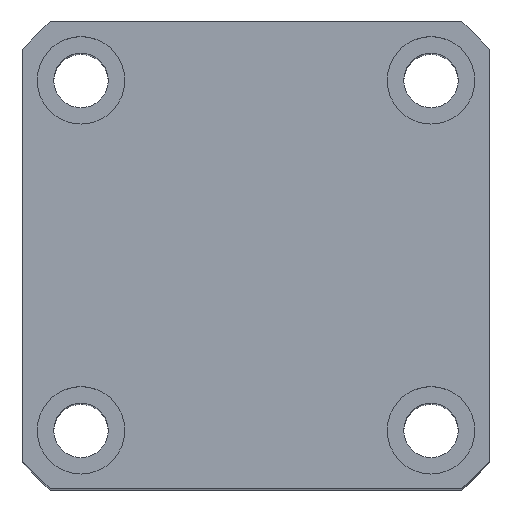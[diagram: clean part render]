
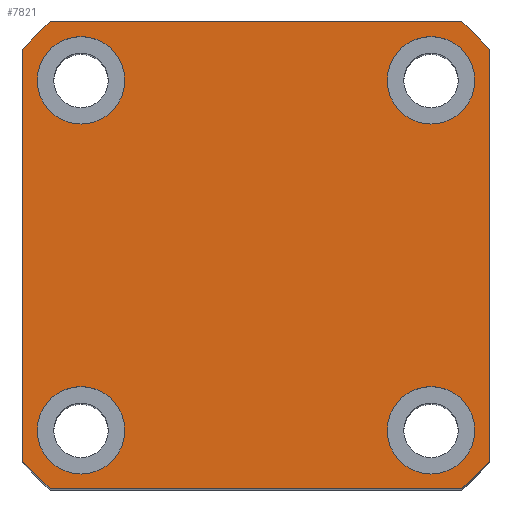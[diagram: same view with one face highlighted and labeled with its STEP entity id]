
A CAD part, top view. The second image highlights one B-rep face of the part: STEP entity #7821.
In plain terms, the highlighted planar face has unit normal (0, 0, 1) as drawn and (1, 0, 0) by its records, which use the part's own axes.
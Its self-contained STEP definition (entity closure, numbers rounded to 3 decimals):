
#9 = CARTESIAN_POINT ( 'NONE',  ( 80., 24., 21.166 ) ) ;
#17 = CARTESIAN_POINT ( 'NONE',  ( 80., -21.166, -24. ) ) ;
#61 = DIRECTION ( 'NONE',  ( 1., 0., 0. ) ) ;
#103 = CARTESIAN_POINT ( 'NONE',  ( 80., 18., -18. ) ) ;
#145 = DIRECTION ( 'NONE',  ( 0., 0., -1. ) ) ;
#384 = CIRCLE ( 'NONE', #3969, 32. ) ;
#424 = VERTEX_POINT ( 'NONE', #3492 ) ;
#471 = EDGE_CURVE ( 'NONE', #3084, #9957, #7699, .T. ) ;
#493 = CIRCLE ( 'NONE', #4483, 4.5 ) ;
#630 = FACE_BOUND ( 'NONE', #7166, .T. ) ;
#673 = EDGE_CURVE ( 'NONE', #4186, #4043, #9313, .T. ) ;
#712 = VERTEX_POINT ( 'NONE', #10400 ) ;
#758 = CIRCLE ( 'NONE', #8121, 32. ) ;
#787 = VERTEX_POINT ( 'NONE', #9 ) ;
#971 = DIRECTION ( 'NONE',  ( 0., 0., -1. ) ) ;
#973 = DIRECTION ( 'NONE',  ( 1., 0., 0. ) ) ;
#981 = CARTESIAN_POINT ( 'NONE',  ( 80., -18., 18. ) ) ;
#1030 = ORIENTED_EDGE ( 'NONE', *, *, #5077, .T. ) ;
#1054 = EDGE_CURVE ( 'NONE', #787, #10558, #6162, .T. ) ;
#1229 = CIRCLE ( 'NONE', #7945, 4.5 ) ;
#1368 = CARTESIAN_POINT ( 'NONE',  ( 80., 21.166, 24. ) ) ;
#1421 = EDGE_CURVE ( 'NONE', #5208, #424, #2145, .T. ) ;
#1450 = CARTESIAN_POINT ( 'NONE',  ( 80., -18., 18. ) ) ;
#1472 = VERTEX_POINT ( 'NONE', #4266 ) ;
#1667 = DIRECTION ( 'NONE',  ( 0., 1., 0. ) ) ;
#1685 = CARTESIAN_POINT ( 'NONE',  ( 80., 24., -24. ) ) ;
#1884 = CARTESIAN_POINT ( 'NONE',  ( 80., 0., 0. ) ) ;
#1961 = EDGE_CURVE ( 'NONE', #2219, #7678, #1229, .T. ) ;
#2145 = CIRCLE ( 'NONE', #8135, 4.5 ) ;
#2219 = VERTEX_POINT ( 'NONE', #2384 ) ;
#2264 = DIRECTION ( 'NONE',  ( 0., 0., -1. ) ) ;
#2384 = CARTESIAN_POINT ( 'NONE',  ( 80., -18., 22.5 ) ) ;
#2604 = CARTESIAN_POINT ( 'NONE',  ( 80., 0., 0. ) ) ;
#2620 = FACE_BOUND ( 'NONE', #7424, .T. ) ;
#2707 = DIRECTION ( 'NONE',  ( 0., 0., -1. ) ) ;
#2793 = EDGE_LOOP ( 'NONE', ( #9756, #6615 ) ) ;
#2815 = VECTOR ( 'NONE', #1667, 1000. ) ;
#2851 = CARTESIAN_POINT ( 'NONE',  ( 80., -24., 24. ) ) ;
#2881 = FACE_BOUND ( 'NONE', #9394, .T. ) ;
#2902 = CARTESIAN_POINT ( 'NONE',  ( 80., 24., -21.166 ) ) ;
#3016 = ORIENTED_EDGE ( 'NONE', *, *, #9061, .T. ) ;
#3059 = AXIS2_PLACEMENT_3D ( 'NONE', #9651, #4815, #10431 ) ;
#3084 = VERTEX_POINT ( 'NONE', #10460 ) ;
#3138 = CARTESIAN_POINT ( 'NONE',  ( 80., 18., 13.5 ) ) ;
#3190 = EDGE_LOOP ( 'NONE', ( #3415, #1030, #8960, #5791, #10034, #10342, #9869, #3016 ) ) ;
#3312 = VECTOR ( 'NONE', #3695, 1000. ) ;
#3372 = VECTOR ( 'NONE', #3421, 1000. ) ;
#3415 = ORIENTED_EDGE ( 'NONE', *, *, #673, .T. ) ;
#3421 = DIRECTION ( 'NONE',  ( 0., 0., 1. ) ) ;
#3439 = DIRECTION ( 'NONE',  ( 0., 0., -1. ) ) ;
#3492 = CARTESIAN_POINT ( 'NONE',  ( 80., 18., 22.5 ) ) ;
#3695 = DIRECTION ( 'NONE',  ( 0., 0., -1. ) ) ;
#3890 = EDGE_CURVE ( 'NONE', #8067, #9867, #7124, .T. ) ;
#3949 = AXIS2_PLACEMENT_3D ( 'NONE', #103, #61, #10488 ) ;
#3969 = AXIS2_PLACEMENT_3D ( 'NONE', #1884, #7636, #2707 ) ;
#4043 = VERTEX_POINT ( 'NONE', #9855 ) ;
#4102 = CARTESIAN_POINT ( 'NONE',  ( 80., -18., -13.5 ) ) ;
#4116 = CARTESIAN_POINT ( 'NONE',  ( 80., 18., -13.5 ) ) ;
#4171 = DIRECTION ( 'NONE',  ( 0., -1., 0. ) ) ;
#4186 = VERTEX_POINT ( 'NONE', #17 ) ;
#4245 = EDGE_CURVE ( 'NONE', #6485, #1472, #5837, .T. ) ;
#4266 = CARTESIAN_POINT ( 'NONE',  ( 80., 18., -22.5 ) ) ;
#4306 = DIRECTION ( 'NONE',  ( 0., 0., -1. ) ) ;
#4336 = CARTESIAN_POINT ( 'NONE',  ( 80., 0., 0. ) ) ;
#4392 = DIRECTION ( 'NONE',  ( 0., 0., -1. ) ) ;
#4406 = DIRECTION ( 'NONE',  ( 1., 0., 0. ) ) ;
#4408 = CARTESIAN_POINT ( 'NONE',  ( 80., 18., 18. ) ) ;
#4431 = DIRECTION ( 'NONE',  ( 1., 0., 0. ) ) ;
#4441 = CIRCLE ( 'NONE', #8677, 4.5 ) ;
#4483 = AXIS2_PLACEMENT_3D ( 'NONE', #4698, #10333, #5521 ) ;
#4552 = CARTESIAN_POINT ( 'NONE',  ( 80., -18., -22.5 ) ) ;
#4666 = DIRECTION ( 'NONE',  ( 1., 0., 0. ) ) ;
#4698 = CARTESIAN_POINT ( 'NONE',  ( 80., 18., -18. ) ) ;
#4796 = FACE_BOUND ( 'NONE', #2793, .T. ) ;
#4815 = DIRECTION ( 'NONE',  ( 1., 0., 0. ) ) ;
#4902 = EDGE_CURVE ( 'NONE', #712, #3084, #758, .T. ) ;
#5077 = EDGE_CURVE ( 'NONE', #4043, #8056, #5819, .T. ) ;
#5141 = DIRECTION ( 'NONE',  ( 1., 0., 0. ) ) ;
#5208 = VERTEX_POINT ( 'NONE', #3138 ) ;
#5312 = LINE ( 'NONE', #5909, #3372 ) ;
#5322 = ORIENTED_EDGE ( 'NONE', *, *, #5906, .F. ) ;
#5521 = DIRECTION ( 'NONE',  ( 0., 0., -1. ) ) ;
#5791 = ORIENTED_EDGE ( 'NONE', *, *, #1054, .T. ) ;
#5819 = CIRCLE ( 'NONE', #6302, 32. ) ;
#5836 = DIRECTION ( 'NONE',  ( 0., 0., -1. ) ) ;
#5837 = CIRCLE ( 'NONE', #3949, 4.5 ) ;
#5877 = DIRECTION ( 'NONE',  ( 1., 0., 0. ) ) ;
#5906 = EDGE_CURVE ( 'NONE', #7678, #2219, #7027, .T. ) ;
#5909 = CARTESIAN_POINT ( 'NONE',  ( 80., 24., 24. ) ) ;
#5914 = CARTESIAN_POINT ( 'NONE',  ( 80., 0., 0. ) ) ;
#5971 = LINE ( 'NONE', #9865, #10223 ) ;
#6162 = CIRCLE ( 'NONE', #7813, 32. ) ;
#6302 = AXIS2_PLACEMENT_3D ( 'NONE', #9965, #5141, #145 ) ;
#6366 = AXIS2_PLACEMENT_3D ( 'NONE', #9282, #9239, #9138 ) ;
#6485 = VERTEX_POINT ( 'NONE', #4116 ) ;
#6615 = ORIENTED_EDGE ( 'NONE', *, *, #4245, .F. ) ;
#7027 = CIRCLE ( 'NONE', #9963, 4.5 ) ;
#7124 = CIRCLE ( 'NONE', #6366, 4.5 ) ;
#7149 = CARTESIAN_POINT ( 'NONE',  ( 80., -18., 13.5 ) ) ;
#7166 = EDGE_LOOP ( 'NONE', ( #8416, #10543 ) ) ;
#7199 = DIRECTION ( 'NONE',  ( 1., 0., 0. ) ) ;
#7424 = EDGE_LOOP ( 'NONE', ( #10066, #9495 ) ) ;
#7636 = DIRECTION ( 'NONE',  ( 1., 0., 0. ) ) ;
#7678 = VERTEX_POINT ( 'NONE', #7149 ) ;
#7699 = LINE ( 'NONE', #2851, #3312 ) ;
#7726 = AXIS2_PLACEMENT_3D ( 'NONE', #2604, #8315, #3439 ) ;
#7813 = AXIS2_PLACEMENT_3D ( 'NONE', #4336, #4431, #4306 ) ;
#7821 = ADVANCED_FACE ( 'NONE', ( #630, #2881, #4796, #2620, #8851 ), #9058, .T. ) ;
#7945 = AXIS2_PLACEMENT_3D ( 'NONE', #981, #973, #971 ) ;
#8056 = VERTEX_POINT ( 'NONE', #2902 ) ;
#8067 = VERTEX_POINT ( 'NONE', #4552 ) ;
#8121 = AXIS2_PLACEMENT_3D ( 'NONE', #5914, #5877, #5836 ) ;
#8135 = AXIS2_PLACEMENT_3D ( 'NONE', #4408, #4406, #4392 ) ;
#8315 = DIRECTION ( 'NONE',  ( 1., 0., 0. ) ) ;
#8416 = ORIENTED_EDGE ( 'NONE', *, *, #3890, .F. ) ;
#8475 = EDGE_CURVE ( 'NONE', #424, #5208, #8498, .T. ) ;
#8498 = CIRCLE ( 'NONE', #3059, 4.5 ) ;
#8677 = AXIS2_PLACEMENT_3D ( 'NONE', #9526, #4666, #10309 ) ;
#8851 = FACE_OUTER_BOUND ( 'NONE', #3190, .T. ) ;
#8960 = ORIENTED_EDGE ( 'NONE', *, *, #10305, .T. ) ;
#9058 = PLANE ( 'NONE',  #7726 ) ;
#9061 = EDGE_CURVE ( 'NONE', #9957, #4186, #384, .T. ) ;
#9138 = DIRECTION ( 'NONE',  ( 0., 0., -1. ) ) ;
#9153 = CARTESIAN_POINT ( 'NONE',  ( 80., -24., -21.166 ) ) ;
#9239 = DIRECTION ( 'NONE',  ( 1., 0., 0. ) ) ;
#9282 = CARTESIAN_POINT ( 'NONE',  ( 80., -18., -18. ) ) ;
#9313 = LINE ( 'NONE', #1685, #2815 ) ;
#9394 = EDGE_LOOP ( 'NONE', ( #5322, #9531 ) ) ;
#9495 = ORIENTED_EDGE ( 'NONE', *, *, #8475, .F. ) ;
#9526 = CARTESIAN_POINT ( 'NONE',  ( 80., -18., -18. ) ) ;
#9531 = ORIENTED_EDGE ( 'NONE', *, *, #1961, .F. ) ;
#9574 = EDGE_CURVE ( 'NONE', #9867, #8067, #4441, .T. ) ;
#9651 = CARTESIAN_POINT ( 'NONE',  ( 80., 18., 18. ) ) ;
#9756 = ORIENTED_EDGE ( 'NONE', *, *, #10015, .F. ) ;
#9855 = CARTESIAN_POINT ( 'NONE',  ( 80., 21.166, -24. ) ) ;
#9865 = CARTESIAN_POINT ( 'NONE',  ( 80., 24., 24. ) ) ;
#9867 = VERTEX_POINT ( 'NONE', #4102 ) ;
#9869 = ORIENTED_EDGE ( 'NONE', *, *, #471, .T. ) ;
#9936 = EDGE_CURVE ( 'NONE', #10558, #712, #5971, .T. ) ;
#9957 = VERTEX_POINT ( 'NONE', #9153 ) ;
#9963 = AXIS2_PLACEMENT_3D ( 'NONE', #1450, #7199, #2264 ) ;
#9965 = CARTESIAN_POINT ( 'NONE',  ( 80., 0., 0. ) ) ;
#10015 = EDGE_CURVE ( 'NONE', #1472, #6485, #493, .T. ) ;
#10034 = ORIENTED_EDGE ( 'NONE', *, *, #9936, .T. ) ;
#10066 = ORIENTED_EDGE ( 'NONE', *, *, #1421, .F. ) ;
#10223 = VECTOR ( 'NONE', #4171, 1000. ) ;
#10305 = EDGE_CURVE ( 'NONE', #8056, #787, #5312, .T. ) ;
#10309 = DIRECTION ( 'NONE',  ( 0., 0., -1. ) ) ;
#10333 = DIRECTION ( 'NONE',  ( 1., 0., 0. ) ) ;
#10342 = ORIENTED_EDGE ( 'NONE', *, *, #4902, .T. ) ;
#10400 = CARTESIAN_POINT ( 'NONE',  ( 80., -21.166, 24. ) ) ;
#10431 = DIRECTION ( 'NONE',  ( 0., 0., -1. ) ) ;
#10460 = CARTESIAN_POINT ( 'NONE',  ( 80., -24., 21.166 ) ) ;
#10488 = DIRECTION ( 'NONE',  ( 0., 0., -1. ) ) ;
#10543 = ORIENTED_EDGE ( 'NONE', *, *, #9574, .F. ) ;
#10558 = VERTEX_POINT ( 'NONE', #1368 ) ;
